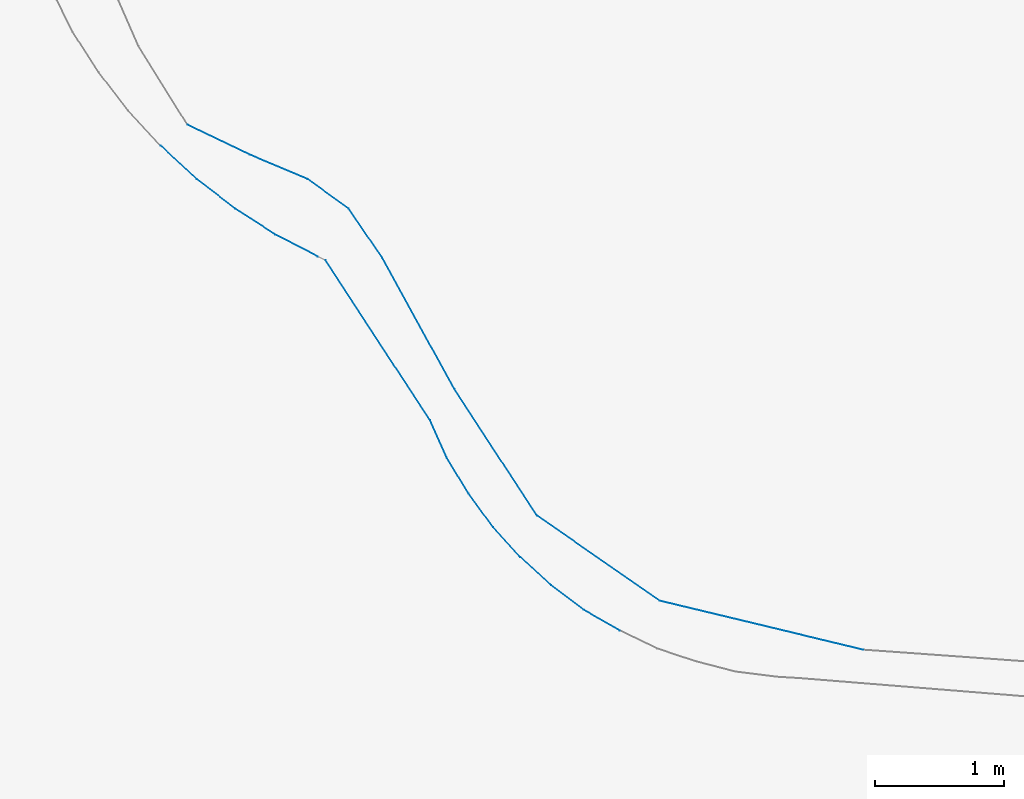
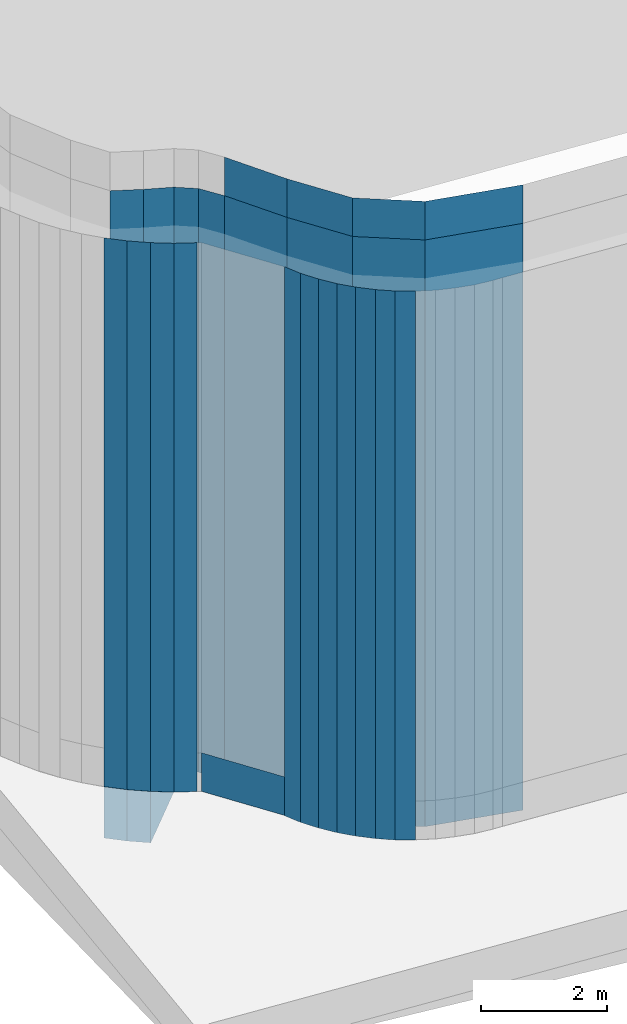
# Not in any storey, part 36 of 136: 31 walls.
"""IFC4 building model written with IfcOpenShell, lengths in metres."""

from ifc_helpers import new_model, entity, si_unit, converted_unit, origin, place, context, subcontext, project, spatial, face_set, surface_model, element, save


model = new_model("IFC4")

# Units and contexts
model_context = context("Model", 3, precision=1e-05, world=origin())
body_context = subcontext(model_context, "Body", "Model", "MODEL_VIEW")
ifc_project = project(units=[converted_unit("PLANEANGLEUNIT", "DEGREE", entity("IfcRatioMeasure", 0.0174532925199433), si_unit("PLANEANGLEUNIT", "RADIAN"), dimensions=[0, 0, 0, 0, 0, 0, 0]), si_unit("AREAUNIT", "SQUARE_METRE"), si_unit("LENGTHUNIT", "METRE")], contexts=[model_context])

# Site, building
site_placement = place(None, origin())
site = spatial("IfcSite", under=ifc_project, at=site_placement, Name="_site")
building_placement = place(site_placement, origin())
building = spatial("IfcBuilding", under=site, at=building_placement, Name="_building")

# Walls
wall_1_placement = place(building_placement, origin())
element("IfcWall", 1, at=wall_1_placement, inside=building, Name="Wall", PredefinedType="NOTDEFINED", context=body_context, shape_type="SurfaceModel", body=[
    surface_model("IfcFaceBasedSurfaceModel", [(178.64, 54.16, 48.6), (178.51, 54.45, 48.6), (178.51, 54.45, 37.923), (178.64, 54.16, 37.922)], [face_set([[[0, 1, 2, 3]]])]),
])
wall_2_placement = place(building_placement, origin())
element("IfcWall", 2, at=wall_2_placement, inside=building, Name="Wall", PredefinedType="NOTDEFINED", context=body_context, shape_type="SurfaceModel", body=[
    surface_model("IfcFaceBasedSurfaceModel", [(177.56, 56.32, 49.344), (177.11, 56.51, 49.344), (177.11, 56.51, 37.997), (177.56, 56.32, 37.993)], [face_set([[[0, 1, 2, 3]]])]),
])
wall_3_placement = place(building_placement, origin())
element("IfcWall", 3, at=wall_3_placement, inside=building, Name="Wall", PredefinedType="NOTDEFINED", context=body_context, shape_type="SurfaceModel", body=[
    surface_model("IfcFaceBasedSurfaceModel", [(177.88, 56.09, 49.344), (177.56, 56.32, 49.344), (177.56, 56.32, 37.993), (177.88, 56.09, 37.995)], [face_set([[[0, 1, 2, 3]]])]),
])
wall_4_placement = place(building_placement, origin())
element("IfcWall", 4, at=wall_4_placement, inside=building, Name="Wall", PredefinedType="NOTDEFINED", context=body_context, shape_type="SurfaceModel", body=[
    surface_model("IfcFaceBasedSurfaceModel", [(179.34, 53.71, 49.344), (178.7, 54.69, 49.344), (178.7, 54.69, 50.094), (179.34, 53.71, 50.094)], [face_set([[[0, 1, 2, 3]]])]),
])
wall_5_placement = place(building_placement, origin())
element("IfcWall", 5, at=wall_5_placement, inside=building, Name="Wall", PredefinedType="NOTDEFINED", context=body_context, shape_type="SurfaceModel", body=[
    surface_model("IfcFaceBasedSurfaceModel", [(177.31, 55.89, 48.6), (177.0, 56.09, 48.6), (177.0, 56.09, 37.93), (177.31, 55.89, 37.929)], [face_set([[[0, 1, 2, 3]]])]),
])
wall_6_placement = place(building_placement, origin())
element("IfcWall", 6, at=wall_6_placement, inside=building, Name="Wall", PredefinedType="NOTDEFINED", context=body_context, shape_type="SurfaceModel", body=[
    surface_model("IfcFaceBasedSurfaceModel", [(179.45, 53.17, 48.6), (179.21, 53.39, 48.6), (179.21, 53.39, 37.924), (179.45, 53.17, 37.924)], [face_set([[[0, 1, 2, 3]]])]),
])
wall_7_placement = place(building_placement, origin())
element("IfcWall", 7, at=wall_7_placement, inside=building, Name="Wall", PredefinedType="NOTDEFINED", context=body_context, shape_type="SurfaceModel", body=[
    surface_model("IfcFaceBasedSurfaceModel", [(179.34, 53.71, 49.344), (178.7, 54.69, 49.344), (178.7, 54.69, 50.094), (179.34, 53.71, 50.094)], [face_set([[[0, 1, 2, 3]]])]),
])
wall_8_placement = place(building_placement, origin())
element("IfcWall", 8, at=wall_8_placement, inside=building, Name="Wall", PredefinedType="NOTDEFINED", context=body_context, shape_type="SurfaceModel", body=[
    surface_model("IfcFaceBasedSurfaceModel", [(180.29, 53.05, 49.344), (179.34, 53.71, 49.344), (179.34, 53.71, 37.936), (180.29, 53.05, 37.936)], [face_set([[[0, 1, 2, 3]]])]),
])
wall_9_placement = place(building_placement, origin())
element("IfcWall", 9, at=wall_9_placement, inside=building, Name="Wall", PredefinedType="NOTDEFINED", context=body_context, shape_type="SurfaceModel", body=[
    surface_model("IfcFaceBasedSurfaceModel", [(178.81, 53.88, 48.6), (178.64, 54.16, 48.6), (178.64, 54.16, 37.922), (178.81, 53.88, 37.923)], [face_set([[[0, 1, 2, 3]]])]),
])
wall_10_placement = place(building_placement, origin())
element("IfcWall", 10, at=wall_10_placement, inside=building, Name="Wall", PredefinedType="NOTDEFINED", context=body_context, shape_type="SurfaceModel", body=[
    surface_model("IfcFaceBasedSurfaceModel", [(179.21, 53.39, 48.6), (179.0, 53.62, 48.6), (179.0, 53.62, 37.924), (179.21, 53.39, 37.924)], [face_set([[[0, 1, 2, 3]]])]),
])
wall_11_placement = place(building_placement, origin())
element("IfcWall", 11, at=wall_11_placement, inside=building, Name="Wall", PredefinedType="NOTDEFINED", context=body_context, shape_type="SurfaceModel", body=[
    surface_model("IfcFaceBasedSurfaceModel", [(180.29, 53.05, 49.344), (179.34, 53.71, 49.344), (179.34, 53.71, 50.094), (180.29, 53.05, 50.094)], [face_set([[[0, 1, 2, 3]]])]),
])
wall_12_placement = place(building_placement, origin())
element("IfcWall", 12, at=wall_12_placement, inside=building, Name="Wall", PredefinedType="NOTDEFINED", context=body_context, shape_type="SurfaceModel", body=[
    surface_model("IfcFaceBasedSurfaceModel", [(181.87, 52.67, 49.344), (180.29, 53.05, 49.344), (180.29, 53.05, 50.094), (181.87, 52.67, 50.094)], [face_set([[[0, 1, 2, 3]]])]),
])
wall_13_placement = place(building_placement, origin())
element("IfcWall", 13, at=wall_13_placement, inside=building, Name="Wall", PredefinedType="NOTDEFINED", context=body_context, shape_type="SurfaceModel", body=[
    surface_model("IfcFaceBasedSurfaceModel", [(178.7, 54.69, 49.344), (178.14, 55.71, 49.344), (178.14, 55.71, 50.094), (178.7, 54.69, 50.094)], [face_set([[[0, 1, 2, 3]]])]),
])
wall_14_placement = place(building_placement, origin())
element("IfcWall", 14, at=wall_14_placement, inside=building, Name="Wall", PredefinedType="NOTDEFINED", context=body_context, shape_type="SurfaceModel", body=[
    surface_model("IfcFaceBasedSurfaceModel", [(180.29, 53.05, 49.344), (179.34, 53.71, 49.344), (179.34, 53.71, 50.094), (180.29, 53.05, 50.094)], [face_set([[[0, 1, 2, 3]]])]),
])
wall_15_placement = place(building_placement, origin())
element("IfcWall", 15, at=wall_15_placement, inside=building, Name="Wall", PredefinedType="NOTDEFINED", context=body_context, shape_type="SurfaceModel", body=[
    surface_model("IfcFaceBasedSurfaceModel", [(181.87, 52.67, 49.344), (180.29, 53.05, 49.344), (180.29, 53.05, 50.094), (181.87, 52.67, 50.094)], [face_set([[[0, 1, 2, 3]]])]),
])
wall_16_placement = place(building_placement, origin())
element("IfcWall", 16, at=wall_16_placement, inside=building, Name="Wall", PredefinedType="NOTDEFINED", context=body_context, shape_type="SurfaceModel", body=[
    surface_model("IfcFaceBasedSurfaceModel", [(178.7, 54.69, 49.344), (178.14, 55.71, 49.344), (178.14, 55.71, 50.094), (178.7, 54.69, 50.094)], [face_set([[[0, 1, 2, 3]]])]),
])
wall_17_placement = place(building_placement, origin())
element("IfcWall", 17, at=wall_17_placement, inside=building, Name="Wall", PredefinedType="NOTDEFINED", context=body_context, shape_type="SurfaceModel", body=[
    surface_model("IfcFaceBasedSurfaceModel", [(177.0, 56.09, 48.6), (176.7, 56.32, 48.6), (176.7, 56.32, 37.93), (177.0, 56.09, 37.93)], [face_set([[[0, 1, 2, 3]]])]),
])
wall_18_placement = place(building_placement, origin())
element("IfcWall", 18, at=wall_18_placement, inside=building, Name="Wall", PredefinedType="NOTDEFINED", context=body_context, shape_type="SurfaceModel", body=[
    surface_model("IfcFaceBasedSurfaceModel", [(176.7, 56.32, 37.93), (177.0, 56.09, 37.93), (177.0, 56.09, 36.93), (176.7, 56.32, 36.93)], [face_set([[[0, 1, 2, 3]]])]),
])
wall_19_placement = place(building_placement, origin())
element("IfcWall", 19, at=wall_19_placement, inside=building, Name="Wall", PredefinedType="NOTDEFINED", context=body_context, shape_type="SurfaceModel", body=[
    surface_model("IfcFaceBasedSurfaceModel", [(179.0, 53.62, 48.6), (178.81, 53.88, 48.6), (178.81, 53.88, 37.923), (179.0, 53.62, 37.924)], [face_set([[[0, 1, 2, 3]]])]),
])
wall_20_placement = place(building_placement, origin())
element("IfcWall", 20, at=wall_20_placement, inside=building, Name="Wall", PredefinedType="NOTDEFINED", context=body_context, shape_type="SurfaceModel", body=[
    surface_model("IfcFaceBasedSurfaceModel", [(177.0, 56.09, 37.93), (177.31, 55.89, 37.93), (177.0, 56.09, 36.93)], [face_set([[[0, 1, 2]]])]),
])
wall_21_placement = place(building_placement, origin())
element("IfcWall", 21, at=wall_21_placement, inside=building, Name="Wall", PredefinedType="NOTDEFINED", context=body_context, shape_type="SurfaceModel", body=[
    surface_model("IfcFaceBasedSurfaceModel", [(181.87, 52.67, 49.344), (180.29, 53.05, 49.344), (180.29, 53.05, 37.936), (181.87, 52.67, 37.935)], [face_set([[[0, 1, 2, 3]]])]),
])
wall_22_placement = place(building_placement, origin())
element("IfcWall", 22, at=wall_22_placement, inside=building, Name="Wall", PredefinedType="NOTDEFINED", context=body_context, shape_type="SurfaceModel", body=[
    surface_model("IfcFaceBasedSurfaceModel", [(177.11, 56.51, 49.344), (176.63, 56.74, 49.344), (176.63, 56.74, 37.964), (177.11, 56.51, 37.997)], [face_set([[[0, 1, 2, 3]]])]),
])
wall_23_placement = place(building_placement, origin())
element("IfcWall", 23, at=wall_23_placement, inside=building, Name="Wall", PredefinedType="NOTDEFINED", context=body_context, shape_type="SurfaceModel", body=[
    surface_model("IfcFaceBasedSurfaceModel", [(177.64, 55.72, 48.6), (177.31, 55.89, 48.6), (177.31, 55.89, 37.929), (177.64, 55.72, 37.926)], [face_set([[[0, 1, 2, 3]]])]),
])
wall_24_placement = place(building_placement, origin())
element("IfcWall", 24, at=wall_24_placement, inside=building, Name="Wall", PredefinedType="NOTDEFINED", context=body_context, shape_type="SurfaceModel", body=[
    surface_model("IfcFaceBasedSurfaceModel", [(178.7, 54.69, 49.344), (178.14, 55.71, 49.344), (178.14, 55.71, 37.957), (178.7, 54.69, 37.936)], [face_set([[[0, 1, 2, 3]]])]),
])
wall_25_placement = place(building_placement, origin())
element("IfcWall", 25, at=wall_25_placement, inside=building, Name="Wall", PredefinedType="NOTDEFINED", context=body_context, shape_type="SurfaceModel", body=[
    surface_model("IfcFaceBasedSurfaceModel", [(177.7, 55.69, 37.93), (178.51, 54.45, 37.93), (178.51, 54.45, 38.68), (177.7, 55.69, 38.68)], [face_set([[[0, 1, 2, 3]]])]),
])
wall_26_placement = place(building_placement, origin())
element("IfcWall", 26, at=wall_26_placement, inside=building, Name="Wall", PredefinedType="NOTDEFINED", context=body_context, shape_type="SurfaceModel", body=[
    surface_model("IfcFaceBasedSurfaceModel", [(179.34, 53.71, 49.344), (178.7, 54.69, 49.344), (178.7, 54.69, 37.936), (179.34, 53.71, 37.936)], [face_set([[[0, 1, 2, 3]]])]),
])
wall_27_placement = place(building_placement, origin())
element("IfcWall", 27, at=wall_27_placement, inside=building, Name="Wall", PredefinedType="NOTDEFINED", context=body_context, shape_type="SurfaceModel", body=[
    surface_model("IfcFaceBasedSurfaceModel", [(179.98, 52.82, 48.6), (179.7, 52.98, 48.6), (179.7, 52.98, 37.924), (179.98, 52.82, 37.925)], [face_set([[[0, 1, 2, 3]]])]),
])
wall_28_placement = place(building_placement, origin())
element("IfcWall", 28, at=wall_28_placement, inside=building, Name="Wall", PredefinedType="NOTDEFINED", context=body_context, shape_type="SurfaceModel", body=[
    surface_model("IfcFaceBasedSurfaceModel", [(179.7, 52.98, 48.6), (179.45, 53.17, 48.6), (179.45, 53.17, 37.924), (179.7, 52.98, 37.924)], [face_set([[[0, 1, 2, 3]]])]),
])
wall_29_placement = place(building_placement, origin())
element("IfcWall", 29, at=wall_29_placement, inside=building, Name="Wall", PredefinedType="NOTDEFINED", context=body_context, shape_type="SurfaceModel", body=[
    surface_model("IfcFaceBasedSurfaceModel", [(176.7, 56.32, 48.6), (176.42, 56.58, 48.6), (176.42, 56.58, 37.93), (176.7, 56.32, 37.93)], [face_set([[[0, 1, 2, 3]]])]),
])
wall_30_placement = place(building_placement, origin())
element("IfcWall", 30, at=wall_30_placement, inside=building, Name="Wall", PredefinedType="NOTDEFINED", context=body_context, shape_type="SurfaceModel", body=[
    surface_model("IfcFaceBasedSurfaceModel", [(178.14, 55.71, 49.344), (177.88, 56.09, 49.344), (177.88, 56.09, 37.995), (178.14, 55.71, 37.957)], [face_set([[[0, 1, 2, 3]]])]),
])
wall_31_placement = place(building_placement, origin())
element("IfcWall", 31, at=wall_31_placement, inside=building, Name="Wall", PredefinedType="NOTDEFINED", context=body_context, shape_type="SurfaceModel", body=[
    surface_model("IfcFaceBasedSurfaceModel", [(176.42, 56.58, 37.93), (176.7, 56.32, 37.93), (176.7, 56.32, 36.93), (176.42, 56.58, 36.93)], [face_set([[[0, 1, 2, 3]]])]),
])

save(model, "model.ifc")
